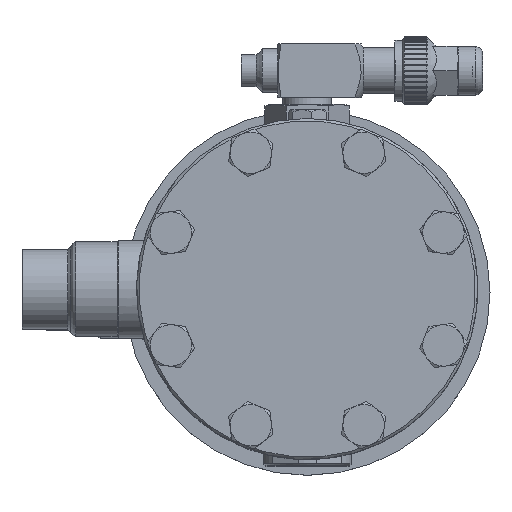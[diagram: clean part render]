
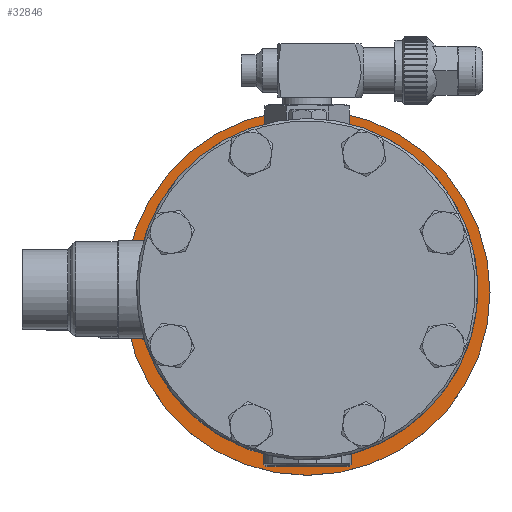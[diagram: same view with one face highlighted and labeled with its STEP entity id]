
A CAD part, top view. The second image highlights one B-rep face of the part: STEP entity #32846.
In plain terms, the highlighted planar face has unit normal (0, 0, 1).
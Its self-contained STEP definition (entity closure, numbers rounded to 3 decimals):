
#7405=FACE_BOUND('',#9863,.T.);
#7406=FACE_BOUND('',#9864,.T.);
#7407=FACE_BOUND('',#9865,.T.);
#7408=FACE_BOUND('',#9866,.T.);
#7409=FACE_BOUND('',#9867,.T.);
#7818=FACE_OUTER_BOUND('',#9862,.T.);
#9862=EDGE_LOOP('',(#21871));
#9863=EDGE_LOOP('',(#21872));
#9864=EDGE_LOOP('',(#21873));
#9865=EDGE_LOOP('',(#21874));
#9866=EDGE_LOOP('',(#21875));
#9867=EDGE_LOOP('',(#21876));
#12208=CIRCLE('',#34918,75.);
#12209=CIRCLE('',#34920,5.5);
#12210=CIRCLE('',#34922,5.5);
#12211=CIRCLE('',#34924,5.5);
#12212=CIRCLE('',#34926,5.5);
#12214=CIRCLE('',#34930,32.342);
#13218=VERTEX_POINT('',#46152);
#13219=VERTEX_POINT('',#46155);
#13220=VERTEX_POINT('',#46158);
#13221=VERTEX_POINT('',#46161);
#13222=VERTEX_POINT('',#46164);
#13224=VERTEX_POINT('',#46170);
#16689=EDGE_CURVE('',#13218,#13218,#12208,.T.);
#16690=EDGE_CURVE('',#13219,#13219,#12209,.T.);
#16691=EDGE_CURVE('',#13220,#13220,#12210,.T.);
#16692=EDGE_CURVE('',#13221,#13221,#12211,.T.);
#16693=EDGE_CURVE('',#13222,#13222,#12212,.T.);
#16695=EDGE_CURVE('',#13224,#13224,#12214,.T.);
#21871=ORIENTED_EDGE('',*,*,#16689,.F.);
#21872=ORIENTED_EDGE('',*,*,#16695,.T.);
#21873=ORIENTED_EDGE('',*,*,#16690,.T.);
#21874=ORIENTED_EDGE('',*,*,#16691,.T.);
#21875=ORIENTED_EDGE('',*,*,#16692,.T.);
#21876=ORIENTED_EDGE('',*,*,#16693,.T.);
#31844=PLANE('',#34929);
#32846=ADVANCED_FACE('',(#7818,#7405,#7406,#7407,#7408,#7409),#31844,.F.);
#34918=AXIS2_PLACEMENT_3D('',#46153,#37987,#37988);
#34920=AXIS2_PLACEMENT_3D('',#46156,#37991,#37992);
#34922=AXIS2_PLACEMENT_3D('',#46159,#37995,#37996);
#34924=AXIS2_PLACEMENT_3D('',#46162,#37999,#38000);
#34926=AXIS2_PLACEMENT_3D('',#46165,#38003,#38004);
#34929=AXIS2_PLACEMENT_3D('',#46169,#38009,#38010);
#34930=AXIS2_PLACEMENT_3D('',#46171,#38011,#38012);
#37987=DIRECTION('center_axis',(0.,0.,
-1.));
#37988=DIRECTION('ref_axis',(1.,0.,0.));
#37991=DIRECTION('center_axis',(0.,0.,
-1.));
#37992=DIRECTION('ref_axis',(-1.,0.,0.));
#37995=DIRECTION('center_axis',(0.,0.,
-1.));
#37996=DIRECTION('ref_axis',(0.,-1.,0.));
#37999=DIRECTION('center_axis',(0.,0.,
-1.));
#38000=DIRECTION('ref_axis',(1.,0.,0.));
#38003=DIRECTION('center_axis',(0.,0.,
-1.));
#38004=DIRECTION('ref_axis',(0.,1.,0.));
#38009=DIRECTION('center_axis',(0.,0.,
-1.));
#38010=DIRECTION('ref_axis',(1.,0.,0.));
#38011=DIRECTION('center_axis',(0.,0.,
-1.));
#38012=DIRECTION('ref_axis',(-1.,0.,0.));
#46152=CARTESIAN_POINT('',(-80.,0.,-507.225));
#46153=CARTESIAN_POINT('Origin',(-5.,0.,-507.225));
#46155=CARTESIAN_POINT('',(-70.5,0.,-507.225));
#46156=CARTESIAN_POINT('Origin',(-65.,0.,-507.225));
#46158=CARTESIAN_POINT('',(-5.,-65.5,-507.225));
#46159=CARTESIAN_POINT('Origin',(-5.,-60.,-507.225));
#46161=CARTESIAN_POINT('',(60.5,0.,-507.225));
#46162=CARTESIAN_POINT('Origin',(55.,0.,-507.225));
#46164=CARTESIAN_POINT('',(-5.,65.5,-507.225));
#46165=CARTESIAN_POINT('Origin',(-5.,60.,-507.225));
#46169=CARTESIAN_POINT('Origin',(-5.,0.,-507.225));
#46170=CARTESIAN_POINT('',(-5.,32.342,-507.225));
#46171=CARTESIAN_POINT('Origin',(-5.,0.,-507.225));
